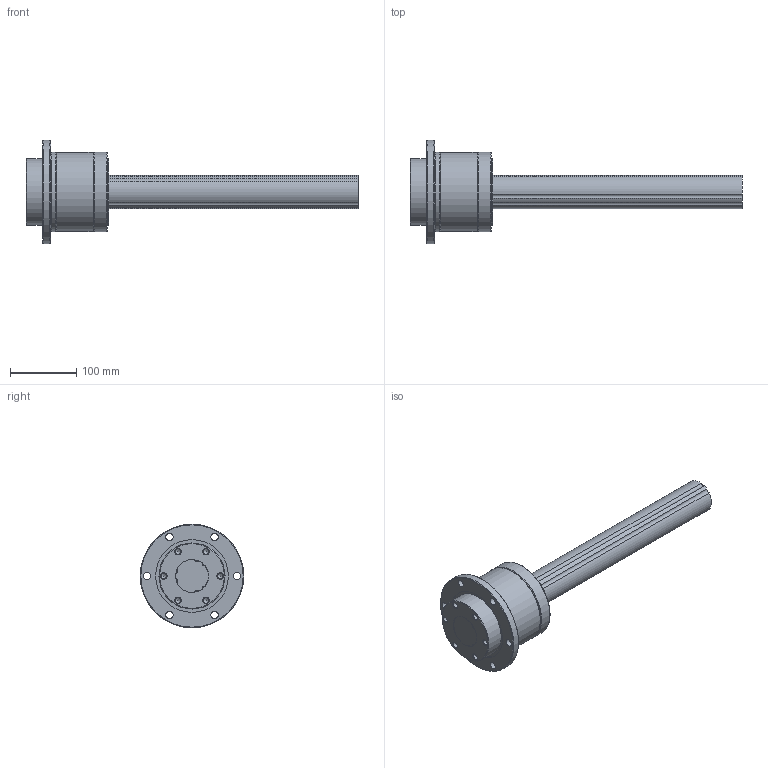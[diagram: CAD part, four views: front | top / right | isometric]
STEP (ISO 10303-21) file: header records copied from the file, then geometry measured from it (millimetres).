
FILE_DESCRIPTION(/* description */ ('STEP AP214'),/* implementation_level */ '2;1');
FILE_NAME(/* name */ 'LTR50+500L(00-)',/* time_stamp */ '2024-09-04T12:27:43+02:00',/* author */ ('License CC BY-ND 4.0'),/* organization */ ('CADENAS'),/* preprocessor_version */ 'ST-DEVELOPER v19.3',/* originating_system */ 'PARTsolutions',/* authorisation */ ' ');
FILE_SCHEMA (('AUTOMOTIVE_DESIGN {1 0 10303 214 3 1 1}'));
Length unit declared in the file: millimetre
Products named in the file (3): LTR50+500L(00-); LTR 50500 CTLTR Shaft; LTR 50 CTLTR Cyl
Assembly tree (3 placements, depth 2):
  LTR50+500L(00-)
    LTR 50500 CTLTR Shaft
    LTR 50 CTLTR Cyl  x2
Bounding box: 500 x 156 x 156 mm (x, y, z)
Volume: 3201570.2 mm3; surface area: 308889.1 mm2
Topology: 3 solids, 3 shells, 120 faces, 278 edges, 180 vertices
Faces by surface type: cylinder 56, cone 36, plane 22, torus 6
Full cylindrical faces by diameter (mm): 8.376 x12, 11 x12, 50 x2, 99.5 x4, 108 x2, 109.45 x2, 118.8 x2, 119 x2, 120 x4, 156 x2
Entity records: 1699 total; most frequent: DIRECTION 320, CARTESIAN_POINT 255, ORIENTED_EDGE 190, AXIS2_PLACEMENT_3D 154, FACE_BOUND 138, EDGE_LOOP 132, EDGE_CURVE 95, VERTEX_POINT 89
